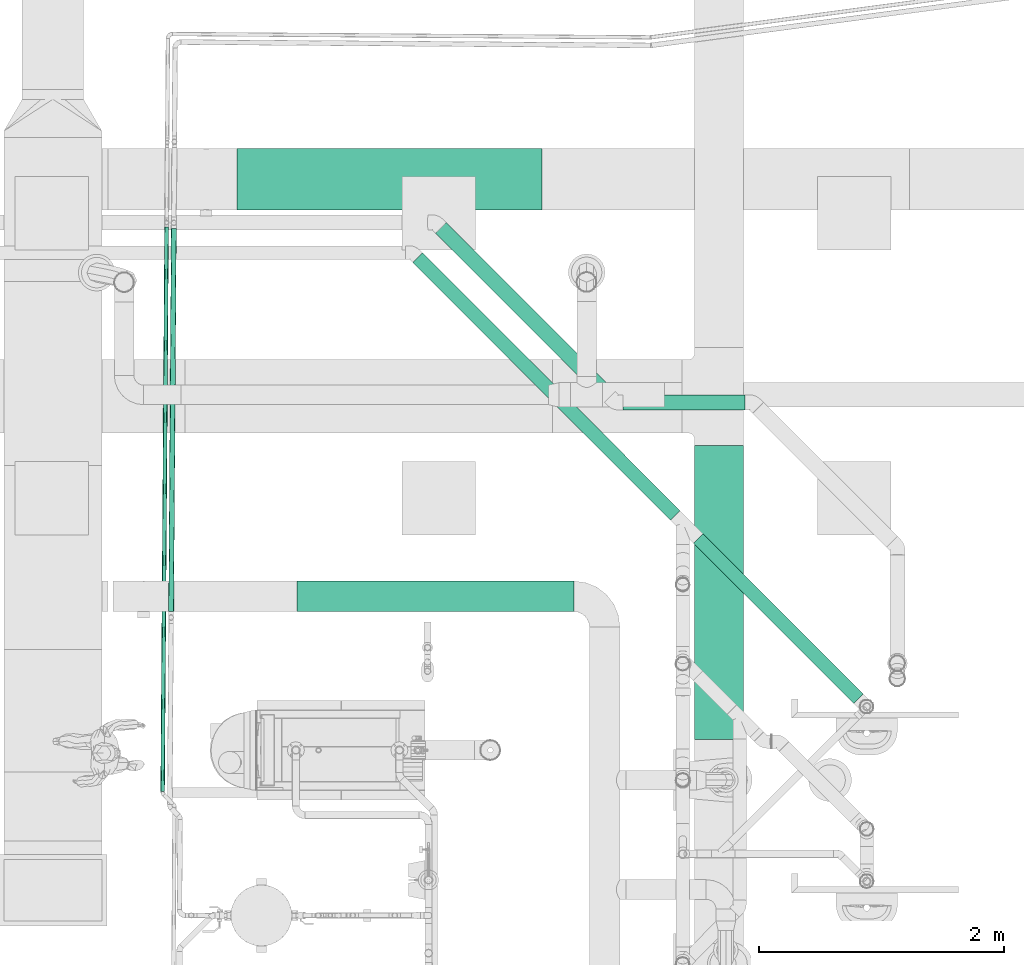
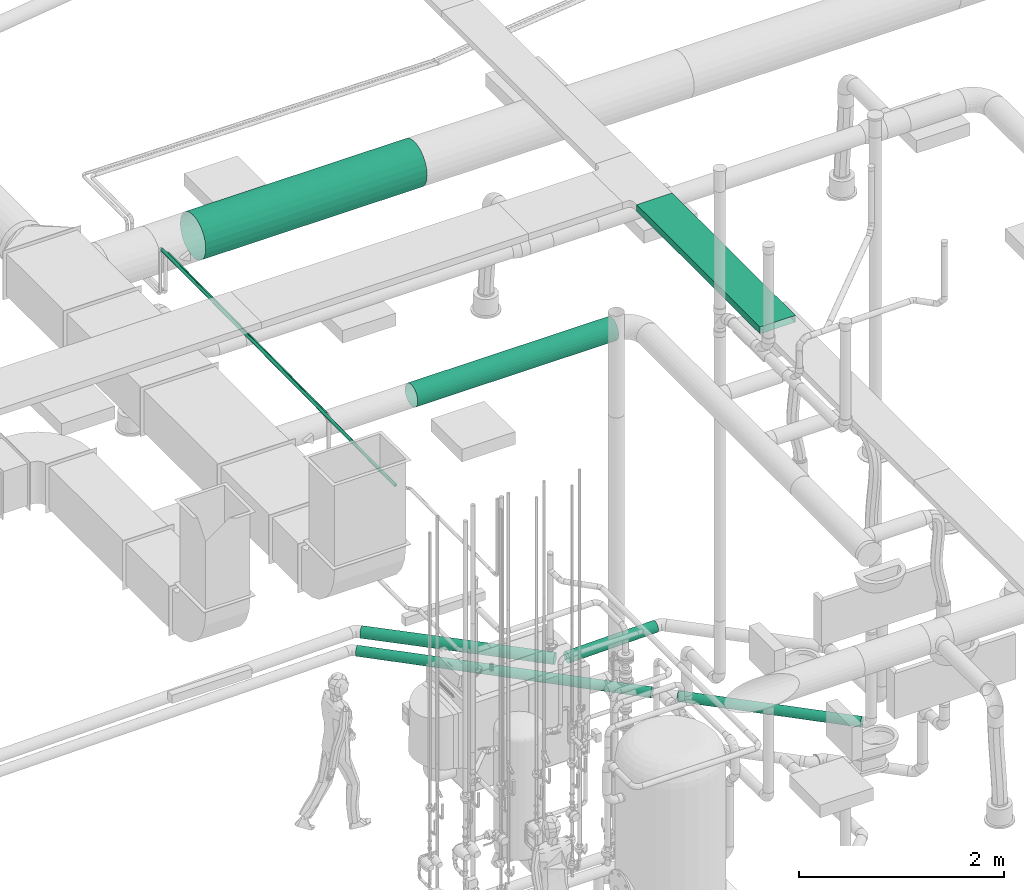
# One storey, part 225 of 374: 8 flow segments, 1 distribution element.
"""IFC2X3 building model written with IfcOpenShell, lengths in metres."""

from ifc_helpers import new_model, si_unit, direction, origin, place, context, subcontext, project, spatial, open_shell, surface_model, source, transform, mapped, element, save


model = new_model("IFC2X3")

# Units and contexts
model_context = context("Model", 3, precision=1e-05, world=origin(), true_north=direction((-0.4480736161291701, 0.8939966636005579)))
body_context = subcontext(model_context, "Body", "Model", "MODEL_VIEW")
ifc_project = project(units=[si_unit("LENGTHUNIT", "METRE"), si_unit("AREAUNIT", "SQUARE_METRE"), si_unit("VOLUMEUNIT", "CUBIC_METRE"), si_unit("PLANEANGLEUNIT", "RADIAN"), si_unit("THERMODYNAMICTEMPERATUREUNIT", "KELVIN"), si_unit("MASSUNIT", "GRAM", prefix="KILO"), si_unit("TIMEUNIT", "SECOND")], contexts=[model_context])

# Site, building, storey
site_placement = place(None, origin())
site = spatial("IfcSite", under=ifc_project, at=site_placement, Name="Site 1", CompositionType="ELEMENT")
building_placement = place(site_placement, origin())
building = spatial("IfcBuilding", under=site, at=building_placement, Name="Undefined", CompositionType="ELEMENT")
storey_placement = place(building_placement, origin())
storey = spatial("IfcBuildingStorey", under=building, at=storey_placement, Name="Rez de chauss\x8ee", CompositionType="ELEMENT", Elevation=0.0)

# Flow segments
shared_shape_1 = source(origin(), body_context, "Body", "SurfaceModel", [
    surface_model("IfcFaceBasedSurfaceModel", [(0.0, 0.0163157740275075, 0.0), (0.0, 0.0, 0.0), (0.9947562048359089, -1.776356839e-15, 0.0), (0.9947562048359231, 0.016315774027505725, 8.8817842e-16), (0.0, -0.015759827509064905, -0.004222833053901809), (0.994756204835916, -0.015759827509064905, -0.004222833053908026), (0.0, -0.029889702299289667, -0.012380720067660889), (0.994756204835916, -0.02988970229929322, -0.012380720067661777), (0.0, -0.04142669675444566, -0.02391771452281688), (0.994756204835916, -0.04142669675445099, -0.023917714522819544), (0.0, -0.04958458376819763, -0.038047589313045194), (0.994756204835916, -0.04958458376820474, -0.03804758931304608), (0.0, -0.053807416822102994, -0.053807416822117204), (0.994756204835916, -0.0538074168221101, -0.05380741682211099), (0.0, -0.053807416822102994, -0.07012319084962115), (0.994756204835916, -0.053807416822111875, -0.0701231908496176), (0.0, -0.04958458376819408, -0.08588301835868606), (0.994756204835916, -0.049584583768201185, -0.0858830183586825), (0.0, -0.04142669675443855, -0.10001289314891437), (0.994756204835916, -0.04142669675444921, -0.10001289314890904), (0.0, -0.02988970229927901, -0.11154988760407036), (0.9947562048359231, -0.029889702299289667, -0.11154988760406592), (0.0, -0.015759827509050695, -0.11970777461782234), (0.9947562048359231, -0.01575982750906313, -0.11970777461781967), (0.0, 1.4210854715e-14, -0.12393060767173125), (0.994756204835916, 1.776356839e-15, -0.12393060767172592), (0.0, 0.016315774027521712, -0.12393060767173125), (0.9947562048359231, 0.0163157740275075, -0.12393060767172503), (0.0, 0.03207560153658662, -0.11970777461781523), (0.9947562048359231, 0.03207560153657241, -0.1197077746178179), (0.0, 0.04620547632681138, -0.11154988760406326), (0.994756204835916, 0.04620547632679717, -0.11154988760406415), (0.0, 0.05774247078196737, -0.10001289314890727), (0.994756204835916, 0.057742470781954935, -0.10001289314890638), (0.0, 0.06590035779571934, -0.08588301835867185), (0.994756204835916, 0.06590035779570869, -0.08588301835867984), (0.0, 0.0701231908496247, -0.07012319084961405), (0.994756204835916, 0.0701231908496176, -0.07012319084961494), (0.0, 0.0701231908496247, -0.05380741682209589), (0.994756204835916, 0.0701231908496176, -0.053807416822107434), (0.0, 0.06590035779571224, -0.03804758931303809), (0.994756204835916, 0.06590035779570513, -0.03804758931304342), (0.0, 0.05774247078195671, -0.023917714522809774), (0.994756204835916, 0.05774247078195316, -0.02391771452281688), (0.0, 0.04620547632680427, -0.012380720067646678), (0.994756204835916, 0.04620547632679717, -0.01238072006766), (0.0, 0.03207560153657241, -0.004222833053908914), (0.9947562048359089, 0.032075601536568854, -0.00422283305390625)], [open_shell([[[0, 1, 2, 3]], [[1, 4, 5, 2]], [[4, 6, 7, 5]], [[6, 8, 9, 7]], [[8, 10, 11, 9]], [[10, 12, 13, 11]], [[12, 14, 15, 13]], [[14, 16, 17, 15]], [[16, 18, 19, 17]], [[18, 20, 21, 19]], [[20, 22, 23, 21]], [[22, 24, 25, 23]], [[24, 26, 27, 25]], [[26, 28, 29, 27]], [[28, 30, 31, 29]], [[30, 32, 33, 31]], [[32, 34, 35, 33]], [[34, 36, 37, 35]], [[36, 38, 39, 37]], [[38, 40, 41, 39]], [[40, 42, 43, 41]], [[42, 44, 45, 43]], [[44, 46, 47, 45]], [[46, 0, 3, 47]]])]),
])
flow_segment_1_placement = place(storey_placement, origin())
element("IfcFlowSegment", 1, at=flow_segment_1_placement, inside=storey, Name="PE-HD tuyau", ObjectType="PE-HD tuyau", context=body_context, shape_type="MappedRepresentation", body=[
    mapped(shared_shape_1, transform((56.58538373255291, 15.877527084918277, -1.147057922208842), x_axis=(0.9998000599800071, 0.0, 0.019996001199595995), y_axis=(-0.002610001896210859, 0.9914448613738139, 0.1305000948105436), z_axis=(-0.01982493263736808, -0.13052619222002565, 0.9912466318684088))),
])
shared_shape_2 = source(origin(), body_context, "Body", "SurfaceModel", [
    surface_model("IfcFaceBasedSurfaceModel", [(0.0, 0.0163157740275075, 0.0), (0.0, 0.0, 0.0), (1.9508234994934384, 0.0, 1.776356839e-15), (1.9508234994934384, 0.016315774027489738, 8.8817842e-16), (0.0, -0.015759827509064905, -0.004222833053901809), (1.9508234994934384, -0.01575982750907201, -0.00422283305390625), (0.0, -0.029889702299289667, -0.012380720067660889), (1.950823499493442, -0.02988970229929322, -0.01238072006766), (0.0, -0.04142669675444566, -0.02391771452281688), (1.9508234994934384, -0.04142669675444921, -0.02391771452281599), (0.0, -0.04958458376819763, -0.038047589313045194), (1.9508234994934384, -0.049584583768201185, -0.03804758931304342), (0.0, -0.053807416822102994, -0.053807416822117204), (1.950823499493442, -0.053807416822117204, -0.05380741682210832), (0.0, -0.053807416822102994, -0.07012319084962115), (1.9508234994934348, -0.053807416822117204, -0.07012319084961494), (0.0, -0.04958458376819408, -0.08588301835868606), (1.950823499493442, -0.049584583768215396, -0.08588301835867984), (0.0, -0.04142669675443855, -0.10001289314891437), (1.9508234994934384, -0.04142669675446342, -0.10001289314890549), (0.0, -0.02988970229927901, -0.11154988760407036), (1.950823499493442, -0.02988970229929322, -0.11154988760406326), (0.0, -0.015759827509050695, -0.11970777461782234), (1.9508234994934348, -0.01575982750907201, -0.1197077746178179), (0.0, 1.4210854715e-14, -0.12393060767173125), (1.9508234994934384, 0.0, -0.12393060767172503), (0.0, 0.016315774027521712, -0.12393060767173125), (1.9508234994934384, 0.016315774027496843, -0.12393060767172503), (0.0, 0.03207560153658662, -0.11970777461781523), (1.9508234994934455, 0.032075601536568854, -0.1197077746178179), (0.0, 0.04620547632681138, -0.11154988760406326), (1.9508234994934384, 0.04620547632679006, -0.11154988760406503), (0.0, 0.05774247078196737, -0.10001289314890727), (1.9508234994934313, 0.057742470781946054, -0.10001289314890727), (0.0, 0.06590035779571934, -0.08588301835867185), (1.950823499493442, 0.06590035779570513, -0.08588301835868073), (0.0, 0.0701231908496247, -0.07012319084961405), (1.9508234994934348, 0.07012319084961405, -0.07012319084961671), (0.0, 0.0701231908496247, -0.05380741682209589), (1.950823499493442, 0.07012319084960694, -0.0538074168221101), (0.0, 0.06590035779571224, -0.03804758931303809), (1.9508234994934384, 0.06590035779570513, -0.038047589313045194), (0.0, 0.05774247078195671, -0.023917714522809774), (1.950823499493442, 0.05774247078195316, -0.023917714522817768), (0.0, 0.04620547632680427, -0.012380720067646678), (1.950823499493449, 0.04620547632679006, -0.012380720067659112), (0.0, 0.03207560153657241, -0.004222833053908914), (1.950823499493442, 0.03207560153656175, -0.004222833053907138)], [open_shell([[[0, 1, 2, 3]], [[1, 4, 5, 2]], [[4, 6, 7, 5]], [[6, 8, 9, 7]], [[8, 10, 11, 9]], [[10, 12, 13, 11]], [[12, 14, 15, 13]], [[14, 16, 17, 15]], [[16, 18, 19, 17]], [[18, 20, 21, 19]], [[20, 22, 23, 21]], [[22, 24, 25, 23]], [[24, 26, 27, 25]], [[26, 28, 29, 27]], [[28, 30, 31, 29]], [[30, 32, 33, 31]], [[32, 34, 35, 33]], [[34, 36, 37, 35]], [[36, 38, 39, 37]], [[38, 40, 41, 39]], [[40, 42, 43, 41]], [[42, 44, 45, 43]], [[44, 46, 47, 45]], [[46, 0, 3, 47]]])]),
])
flow_segment_2_placement = place(storey_placement, origin())
element("IfcFlowSegment", 2, at=flow_segment_2_placement, inside=storey, Name="PE-HD tuyau", ObjectType="PE-HD tuyau", context=body_context, shape_type="MappedRepresentation", body=[
    mapped(shared_shape_2, transform((56.46969670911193, 15.9259412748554, -1.2704056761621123), x_axis=(-0.7069654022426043, 0.7069654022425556, -0.01999600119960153), y_axis=(0.7035271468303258, 0.7000683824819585, -0.1222857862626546), z_axis=(-0.07245325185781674, -0.10051954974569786, -0.9922934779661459))),
])
shared_shape_3 = source(origin(), body_context, "Body", "SurfaceModel", [
    surface_model("IfcFaceBasedSurfaceModel", [(2.9738998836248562, -7.105427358e-15, 0.0), (2.9739025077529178, 0.014357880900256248, 0.0), (2.624128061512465e-06, 0.014357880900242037, 0.0), (0.0, 0.0, 0.0), (2.9739049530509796, 0.028226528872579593, -0.003716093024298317), (5.06942613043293e-06, 0.028226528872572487, -0.003716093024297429), (2.9739070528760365, 0.04066081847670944, -0.010895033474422), (7.1692511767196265e-06, 0.04066081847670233, -0.010895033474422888), (2.9739086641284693, 0.05081337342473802, -0.021047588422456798), (8.780503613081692e-06, 0.05081337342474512, -0.021047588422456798), (2.9739096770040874, 0.0579923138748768, -0.03348187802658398), (9.793379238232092e-06, 0.05799231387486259, -0.033481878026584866), (2.9739100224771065, 0.061708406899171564, -0.04735052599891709), (1.013885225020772e-05, 0.06170840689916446, -0.047350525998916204), (2.973909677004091, 0.061708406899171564, -0.06170840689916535), (9.793379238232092e-06, 0.06170840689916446, -0.06170840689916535), (2.9739086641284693, 0.05799231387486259, -0.07557705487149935), (8.780503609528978e-06, 0.05799231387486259, -0.07557705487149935), (2.97390705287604, 0.05081337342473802, -0.08801134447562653), (7.169251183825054e-06, 0.05081337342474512, -0.08801134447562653), (2.9739049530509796, 0.04066081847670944, -0.09816389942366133), (5.069426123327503e-06, 0.04066081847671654, -0.09816389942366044), (2.973902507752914, 0.028226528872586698, -0.1053428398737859), (2.6241280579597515e-06, 0.028226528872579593, -0.10534283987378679), (2.9738998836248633, 0.014357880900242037, -0.1090589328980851), (3.552713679e-15, 0.014357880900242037, -0.10905893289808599), (2.973897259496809, 0.0, -0.1090589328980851), (-2.6241280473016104e-06, 0.0, -0.1090589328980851), (2.9738948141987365, -0.013868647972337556, -0.10534283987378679), (-5.069426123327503e-06, -0.01386864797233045, -0.10534283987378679), (2.9738927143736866, -0.026302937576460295, -0.0981638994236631), (-7.169251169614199e-06, -0.026302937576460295, -0.09816389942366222), (2.9738911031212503, -0.036455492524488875, -0.0880113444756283), (-8.780503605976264e-06, -0.036455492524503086, -0.0880113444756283), (2.9738900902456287, -0.043634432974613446, -0.07557705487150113), (-9.79337922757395e-06, -0.043634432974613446, -0.07557705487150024), (2.973889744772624, -0.04735052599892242, -0.06170840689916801), (-1.0138852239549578e-05, -0.04735052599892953, -0.06170840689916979), (2.9738900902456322, -0.047350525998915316, -0.04735052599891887), (-9.793379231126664e-06, -0.04735052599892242, -0.04735052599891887), (2.973891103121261, -0.04363443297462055, -0.03348187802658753), (-8.780503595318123e-06, -0.04363443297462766, -0.03348187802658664), (2.973892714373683, -0.03645549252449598, -0.021047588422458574), (-7.1692511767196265e-06, -0.03645549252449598, -0.021047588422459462), (2.97389481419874, -0.02630293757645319, -0.010895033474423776), (-5.069426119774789e-06, -0.0263029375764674, -0.010895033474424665), (2.973897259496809, -0.013868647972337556, -0.003716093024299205), (-2.6241280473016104e-06, -0.013868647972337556, -0.003716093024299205)], [open_shell([[[0, 1, 2, 3]], [[1, 4, 5, 2]], [[4, 6, 7, 5]], [[6, 8, 9, 7]], [[8, 10, 11, 9]], [[10, 12, 13, 11]], [[12, 14, 15, 13]], [[14, 16, 17, 15]], [[16, 18, 19, 17]], [[18, 20, 21, 19]], [[20, 22, 23, 21]], [[22, 24, 25, 23]], [[24, 26, 27, 25]], [[26, 28, 29, 27]], [[28, 30, 31, 29]], [[30, 32, 33, 31]], [[32, 34, 35, 33]], [[34, 36, 37, 35]], [[36, 38, 39, 37]], [[38, 40, 41, 39]], [[40, 42, 43, 41]], [[42, 44, 45, 43]], [[44, 46, 47, 45]], [[46, 0, 3, 47]]])]),
])
flow_segment_3_placement = place(storey_placement, origin())
element("IfcFlowSegment", 3, at=flow_segment_3_placement, inside=storey, Name="PE-HD tuyau", ObjectType="PE-HD tuyau", context=body_context, shape_type="MappedRepresentation", body=[
    mapped(shared_shape_3, transform((54.91108643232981, 17.07486187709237, -1.3138540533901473), x_axis=(0.7069620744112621, -0.7070924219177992, 0.014997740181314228), y_axis=(-0.7030007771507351, -0.7002336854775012, 0.12434907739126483), z_axis=(-0.07742436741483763, -0.09845350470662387, -0.9921251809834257))),
])
shared_shape_4 = source(origin(), body_context, "Body", "SurfaceModel", [
    surface_model("IfcFaceBasedSurfaceModel", [(0.0, 0.014357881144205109, -3.552713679e-15), (0.0, 0.0, 0.0), (1.8499782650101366, -7.105427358e-15, 0.0), (1.8499782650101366, 0.01435788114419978, 0.0), (0.0, -0.01386864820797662, -0.0037160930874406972), (1.849978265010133, -0.013868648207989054, -0.003716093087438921), (0.0, -0.026302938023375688, -0.010895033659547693), (1.8499782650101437, -0.02630293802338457, -0.010895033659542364), (0.0, -0.03645549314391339, -0.021047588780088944), (1.8499782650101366, -0.036455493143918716, -0.02104758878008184), (0.0, -0.04363443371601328, -0.033481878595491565), (1.8499782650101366, -0.04363443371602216, -0.03348187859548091), (0.0, -0.04735052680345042, -0.04735052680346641), (1.8499782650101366, -0.047350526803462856, -0.0473505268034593), (0.0, -0.04735052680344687, -0.06170840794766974), (1.8499782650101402, -0.047350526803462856, -0.06170840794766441), (0.0, -0.04363443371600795, -0.07557705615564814), (1.8499782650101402, -0.04363443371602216, -0.07557705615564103), (0.0, -0.03645549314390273, -0.08801134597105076), (1.8499782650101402, -0.03645549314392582, -0.0880113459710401), (0.0, -0.026302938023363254, -0.0981639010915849), (1.8499782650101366, -0.026302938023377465, -0.0981639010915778), (0.0, -0.013868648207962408, -0.1053428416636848), (1.8499782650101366, -0.013868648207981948, -0.10534284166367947), (0.0, 1.5987211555e-14, -0.10905893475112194), (1.8499782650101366, 0.0, -0.10905893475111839), (0.0, 0.014357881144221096, -0.10905893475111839), (1.8499782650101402, 0.014357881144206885, -0.10905893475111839), (0.0, 0.028226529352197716, -0.10534284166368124), (1.8499782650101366, 0.02822652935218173, -0.10534284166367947), (0.0, 0.040660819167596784, -0.0981639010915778), (1.8499782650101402, 0.04066081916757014, -0.09816390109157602), (0.0, 0.05081337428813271, -0.08801134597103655), (1.8499782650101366, 0.05081337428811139, -0.08801134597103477), (0.0, 0.05799231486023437, -0.07557705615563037), (1.8499782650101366, 0.05799231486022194, -0.0755770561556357), (0.0, 0.06170840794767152, -0.06170840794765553), (1.8499782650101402, 0.06170840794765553, -0.06170840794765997), (0.0, 0.061708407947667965, -0.0473505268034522), (1.8499782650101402, 0.061708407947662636, -0.047350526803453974), (0.0, 0.05799231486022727, -0.033481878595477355), (1.8499782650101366, 0.05799231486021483, -0.033481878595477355), (0.0, 0.050813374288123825, -0.021047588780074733), (1.8499782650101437, 0.050813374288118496, -0.021047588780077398), (0.0, 0.04066081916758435, -0.010895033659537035), (1.8499782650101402, 0.04066081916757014, -0.01089503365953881), (0.0, 0.028226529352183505, -0.0037160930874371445), (1.8499782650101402, 0.028226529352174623, -0.0037160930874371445)], [open_shell([[[0, 1, 2, 3]], [[1, 4, 5, 2]], [[4, 6, 7, 5]], [[6, 8, 9, 7]], [[8, 10, 11, 9]], [[10, 12, 13, 11]], [[12, 14, 15, 13]], [[14, 16, 17, 15]], [[16, 18, 19, 17]], [[18, 20, 21, 19]], [[20, 22, 23, 21]], [[22, 24, 25, 23]], [[24, 26, 27, 25]], [[26, 28, 29, 27]], [[28, 30, 31, 29]], [[30, 32, 33, 31]], [[32, 34, 35, 33]], [[34, 36, 37, 35]], [[36, 38, 39, 37]], [[38, 40, 41, 39]], [[40, 42, 43, 41]], [[42, 44, 45, 43]], [[44, 46, 47, 45]], [[46, 0, 3, 47]]])]),
])
flow_segment_4_placement = place(storey_placement, origin())
element("IfcFlowSegment", 4, at=flow_segment_4_placement, inside=storey, Name="PE-HD tuyau", ObjectType="PE-HD tuyau", context=body_context, shape_type="MappedRepresentation", body=[
    mapped(shared_shape_4, transform((57.190156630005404, 14.775256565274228, -1.1570671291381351), x_axis=(0.7070272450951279, -0.7070272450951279, 0.014998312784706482), y_axis=(0.7002982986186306, 0.7029361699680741, 0.12435044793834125), z_axis=(-0.0984620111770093, -0.07741586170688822, 0.9921250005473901))),
])
shared_shape_5 = source(origin(), body_context, "Body", "SurfaceModel", [
    surface_model("IfcFaceBasedSurfaceModel", [(0.0, 0.03263154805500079, 0.0), (0.0, 0.0, 0.0), (2.261055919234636, 0.0, -4.4408921e-16), (2.261055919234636, 0.032631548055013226, -4.4408921e-16), (0.0, -0.031519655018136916, -0.008445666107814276), (2.261055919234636, -0.03151965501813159, -0.008445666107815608), (0.0, -0.05977940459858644, -0.024761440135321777), (2.261055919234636, -0.05977940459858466, -0.02476144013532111), (0.0, -0.08285339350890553, -0.047835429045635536), (2.261055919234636, -0.0828533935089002, -0.04783542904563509), (0.0, -0.09916916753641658, -0.07609517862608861), (2.261055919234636, -0.09916916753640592, -0.07609517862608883), (0.0, -0.1076148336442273, -0.10761483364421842), (2.261055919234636, -0.10761483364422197, -0.1076148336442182), (0.0, -0.1076148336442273, -0.14024638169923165), (2.261055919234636, -0.10761483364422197, -0.14024638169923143), (0.0, -0.09916916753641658, -0.17176603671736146), (2.261055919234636, -0.0991691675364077, -0.17176603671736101), (0.0, -0.08285339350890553, -0.2000257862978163), (2.261055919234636, -0.08285339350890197, -0.2000257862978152), (0.0, -0.059779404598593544, -0.22309977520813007), (2.261055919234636, -0.059779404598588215, -0.2230997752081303), (0.0, -0.03151965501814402, -0.23941554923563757), (2.261055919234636, -0.03151965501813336, -0.23941554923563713), (0.0, -1.4210854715e-14, -0.24786121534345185), (2.261055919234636, -3.552713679e-15, -0.24786121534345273), (0.0, 0.03263154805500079, -0.24786121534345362), (2.261055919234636, 0.0326315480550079, -0.24786121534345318), (0.0, 0.0641512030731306, -0.23941554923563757), (2.261055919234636, 0.06415120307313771, -0.23941554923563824), (0.0, 0.09241095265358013, -0.22309977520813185), (2.261055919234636, 0.09241095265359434, -0.22309977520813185), (0.0, 0.11548494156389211, -0.2000257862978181), (2.261055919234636, 0.1154849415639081, -0.20002578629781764), (0.0, 0.13180071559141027, -0.171766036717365), (2.261055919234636, 0.13180071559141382, -0.17176603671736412), (0.0, 0.140246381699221, -0.1402463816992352), (2.261055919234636, 0.14024638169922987, -0.1402463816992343), (0.0, 0.140246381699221, -0.10761483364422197), (2.261055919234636, 0.14024638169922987, -0.10761483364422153), (0.0, 0.13180071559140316, -0.07609517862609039), (2.261055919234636, 0.1318007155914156, -0.07609517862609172), (0.0, 0.11548494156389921, -0.04783542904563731), (2.261055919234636, 0.11548494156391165, -0.047835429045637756), (0.0, 0.09241095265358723, -0.024761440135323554), (2.261055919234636, 0.09241095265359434, -0.02476144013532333), (0.0, 0.06415120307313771, -0.008445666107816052), (2.261055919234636, 0.06415120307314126, -0.008445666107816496)], [open_shell([[[0, 1, 2, 3]], [[1, 4, 5, 2]], [[4, 6, 7, 5]], [[6, 8, 9, 7]], [[8, 10, 11, 9]], [[10, 12, 13, 11]], [[12, 14, 15, 13]], [[14, 16, 17, 15]], [[16, 18, 19, 17]], [[18, 20, 21, 19]], [[20, 22, 23, 21]], [[22, 24, 25, 23]], [[24, 26, 27, 25]], [[26, 28, 29, 27]], [[28, 30, 31, 29]], [[30, 32, 33, 31]], [[32, 34, 35, 33]], [[34, 36, 37, 35]], [[36, 38, 39, 37]], [[38, 40, 41, 39]], [[40, 42, 43, 41]], [[42, 44, 45, 43]], [[44, 46, 47, 45]], [[46, 0, 3, 47]]])]),
])
flow_segment_5_placement = place(storey_placement, origin())
element("IfcFlowSegment", 5, at=flow_segment_5_placement, inside=storey, Name="Tube", ObjectType="Tube", context=body_context, shape_type="MappedRepresentation", body=[
    mapped(shared_shape_5, transform((53.92499507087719, 14.278791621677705, 3.920740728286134), x_axis=(1.0, 0.0, 0.0), y_axis=(0.0, 0.9914448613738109, 0.1305261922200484), z_axis=(0.0, -0.1305261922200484, 0.9914448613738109))),
])
shared_shape_6 = source(origin(), body_context, "Body", "SurfaceModel", [
    surface_model("IfcFaceBasedSurfaceModel", [(0.0, 0.0652630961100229, -3.552713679e-15), (0.0, 0.0, 0.0), (2.490000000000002, 0.0, 0.0), (2.490000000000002, 0.06526309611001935, 0.0), (0.0, -0.06303931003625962, -0.01689133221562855), (2.490000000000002, -0.06303931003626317, -0.016891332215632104), (0.0, -0.11955880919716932, -0.049522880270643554), (2.490000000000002, -0.11955880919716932, -0.04952288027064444), (0.0, -0.1657067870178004, -0.09567085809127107), (2.490000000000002, -0.16570678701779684, -0.09567085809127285), (0.0, -0.1983383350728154, -0.15219035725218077), (2.490000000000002, -0.19833833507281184, -0.15219035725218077), (0.0, -0.2152296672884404, -0.2152296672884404), (2.490000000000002, -0.21522966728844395, -0.2152296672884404), (0.0, -0.2152296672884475, -0.28049276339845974), (2.490000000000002, -0.2152296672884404, -0.28049276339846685), (0.0, -0.1983383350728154, -0.3435320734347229), (2.490000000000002, -0.19833833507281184, -0.34353207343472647), (0.0, -0.1657067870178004, -0.4000515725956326), (2.490000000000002, -0.16570678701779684, -0.4000515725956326), (0.0, -0.11955880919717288, -0.44619955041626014), (2.490000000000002, -0.11955880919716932, -0.4461995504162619), (0.0, -0.06303931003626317, -0.47883109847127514), (2.490000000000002, -0.06303931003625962, -0.47883109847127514), (0.0, -7.105427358e-15, -0.49572243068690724), (2.490000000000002, -3.552713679e-15, -0.49572243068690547), (0.0, 0.0652630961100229, -0.4957224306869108), (2.490000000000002, 0.06526309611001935, -0.49572243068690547), (0.0, 0.12830240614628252, -0.47883109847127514), (2.490000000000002, 0.12830240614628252, -0.47883109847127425), (0.0, 0.18482190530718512, -0.4461995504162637), (2.490000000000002, 0.18482190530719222, -0.4461995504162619), (0.0, 0.2309698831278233, -0.4000515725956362), (2.490000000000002, 0.23096988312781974, -0.4000515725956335), (0.0, 0.26360143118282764, -0.34353207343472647), (2.490000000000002, 0.2636014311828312, -0.3435320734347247), (0.0, 0.2804927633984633, -0.2804927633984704), (2.490000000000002, 0.2804927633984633, -0.28049276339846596), (0.0, 0.28049276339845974, -0.2152296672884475), (2.490000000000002, 0.28049276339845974, -0.2152296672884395), (0.0, 0.2636014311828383, -0.15219035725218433), (2.490000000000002, 0.26360143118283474, -0.15219035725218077), (0.0, 0.2309698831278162, -0.09567085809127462), (2.490000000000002, 0.23096988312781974, -0.09567085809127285), (0.0, 0.18482190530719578, -0.049522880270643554), (2.490000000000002, 0.18482190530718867, -0.049522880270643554), (0.0, 0.12830240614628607, -0.016891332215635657), (2.490000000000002, 0.12830240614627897, -0.016891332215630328)], [open_shell([[[0, 1, 2, 3]], [[1, 4, 5, 2]], [[4, 6, 7, 5]], [[6, 8, 9, 7]], [[8, 10, 11, 9]], [[10, 12, 13, 11]], [[12, 14, 15, 13]], [[14, 16, 17, 15]], [[16, 18, 19, 17]], [[18, 20, 21, 19]], [[20, 22, 23, 21]], [[22, 24, 25, 23]], [[24, 26, 27, 25]], [[26, 28, 29, 27]], [[28, 30, 31, 29]], [[30, 32, 33, 31]], [[32, 34, 35, 33]], [[34, 36, 37, 35]], [[36, 38, 39, 37]], [[38, 40, 41, 39]], [[40, 42, 43, 41]], [[42, 44, 45, 43]], [[44, 46, 47, 45]], [[46, 0, 3, 47]]])]),
])
flow_segment_6_placement = place(storey_placement, origin())
element("IfcFlowSegment", 6, at=flow_segment_6_placement, inside=storey, Name="Tube", ObjectType="Tube", context=body_context, shape_type="MappedRepresentation", body=[
    mapped(shared_shape_6, transform((55.924995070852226, 17.649561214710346, 3.5585185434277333), x_axis=(-1.0, 0.0, 0.0), y_axis=(0.0, 0.9914448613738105, -0.13052619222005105), z_axis=(9.56658874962e-13, -0.13052619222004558, -0.9914448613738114))),
])
shared_shape_7 = source(origin(), body_context, "Body", "SurfaceModel", [
    surface_model("IfcFaceBasedSurfaceModel", [(3.123717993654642, -1.33226763e-15, 0.0), (3.1237179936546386, 0.00553431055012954, 7.105427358e-15), (0.0, 0.005534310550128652, 0.0), (0.0, 0.0, 0.0), (3.1237179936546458, 0.010880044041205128, -0.0014323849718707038), (0.0, 0.010880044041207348, -0.0014323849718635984), (3.1237179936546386, 0.015672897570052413, -0.004199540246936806), (0.0, 0.015672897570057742, -0.004199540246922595), (3.1237179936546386, 0.019586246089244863, -0.008112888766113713), (0.0, 0.019586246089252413, -0.008112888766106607), (3.123717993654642, 0.02235340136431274, -0.012905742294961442), (0.0, 0.022353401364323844, -0.012905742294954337), (3.1237179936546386, 0.02378578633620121, -0.01825147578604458), (0.0, 0.023785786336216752, -0.01825147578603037), (3.1237179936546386, 0.02378578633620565, -0.02378578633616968), (0.0, 0.02378578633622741, -0.023785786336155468), (3.123717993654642, 0.022353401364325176, -0.02913151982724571), (0.0, 0.0223534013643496, -0.029131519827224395), (3.123717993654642, 0.019586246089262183, -0.033924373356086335), (0.0, 0.019586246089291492, -0.033924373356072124), (3.123717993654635, 0.015672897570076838, -0.03783772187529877), (0.0, 0.01567289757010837, -0.03783772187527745), (3.1237179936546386, 0.010880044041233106, -0.04060487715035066), (0.0, 0.010880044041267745, -0.04060487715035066), (3.1237179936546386, 0.00553431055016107, -0.042037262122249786), (0.0, 0.005534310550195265, -0.04203726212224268), (3.1237179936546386, 2.886579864e-14, -0.04203726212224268), (0.0, 6.4837024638e-14, -0.042037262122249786), (3.123717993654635, -0.00534573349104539, -0.04060487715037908), (0.0, -0.005345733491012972, -0.040604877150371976), (3.123717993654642, -0.010138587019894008, -0.03783772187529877), (0.0, -0.010138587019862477, -0.037837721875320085), (3.123717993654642, -0.014051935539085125, -0.03392437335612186), (0.0, -0.014051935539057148, -0.03392437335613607), (3.1237179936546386, -0.016819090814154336, -0.029131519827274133), (0.0, -0.01681909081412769, -0.029131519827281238), (3.1237179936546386, -0.018251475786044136, -0.023785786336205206), (0.0, -0.0182514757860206, -0.02378578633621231), (3.123717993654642, -0.018251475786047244, -0.018251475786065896), (0.0, -0.018251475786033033, -0.018251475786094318), (3.1237179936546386, -0.01681909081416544, -0.012905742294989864), (0.0, -0.016819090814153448, -0.012905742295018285), (3.1237179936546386, -0.014051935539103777, -0.00811288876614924), (0.0, -0.01405193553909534, -0.008112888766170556), (3.1237179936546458, -0.0101385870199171, -0.004199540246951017), (0.0, -0.010138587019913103, -0.004199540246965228), (3.1237179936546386, -0.0053457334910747, -0.00143238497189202), (0.0, -0.00534573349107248, -0.0014323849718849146)], [open_shell([[[0, 1, 2, 3]], [[1, 4, 5, 2]], [[4, 6, 7, 5]], [[6, 8, 9, 7]], [[8, 10, 11, 9]], [[10, 12, 13, 11]], [[12, 14, 15, 13]], [[14, 16, 17, 15]], [[16, 18, 19, 17]], [[18, 20, 21, 19]], [[20, 22, 23, 21]], [[22, 24, 25, 23]], [[24, 26, 27, 25]], [[26, 28, 29, 27]], [[28, 30, 31, 29]], [[30, 32, 33, 31]], [[32, 34, 35, 33]], [[34, 36, 37, 35]], [[36, 38, 39, 37]], [[38, 40, 41, 39]], [[40, 42, 43, 41]], [[42, 44, 45, 43]], [[44, 46, 47, 45]], [[46, 0, 3, 47]]])]),
])
flow_segment_7_placement = place(storey_placement, origin())
element("IfcFlowSegment", 7, at=flow_segment_7_placement, inside=storey, Name="Tube acier d'après DIN 2448", ObjectType="Tube acier d'après DIN 2448", context=body_context, shape_type="MappedRepresentation", body=[
    mapped(shared_shape_7, transform((52.92102497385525, 14.186850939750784, 4.005140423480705), x_axis=(0.0069812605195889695, 0.9999756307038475, 0.0), y_axis=(-0.13052301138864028, 0.000911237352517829, 0.9914448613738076), z_axis=(0.9914207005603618, -0.0069215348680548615, 0.1305261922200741))),
])
shared_shape_8 = source(origin(), body_context, "Body", "SurfaceModel", [
    surface_model("IfcFaceBasedSurfaceModel", [(4.604368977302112, 1.776356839e-15, 0.0), (4.604368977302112, 0.004398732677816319, 0.0), (0.0, 0.004398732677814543, 0.0), (0.0, 0.0, 0.0), (4.604368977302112, 0.008647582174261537, -0.0011384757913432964), (0.0, 0.00864758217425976, -0.0011384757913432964), (4.604368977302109, 0.012456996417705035, -0.0033378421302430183), (0.0, 0.012456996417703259, -0.0033378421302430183), (4.604368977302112, 0.015567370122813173, -0.006448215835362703), (0.0, 0.015567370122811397, -0.006448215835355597), (4.604368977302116, 0.017766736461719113, -0.010257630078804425), (0.0, 0.01776673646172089, -0.01025763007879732), (4.604368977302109, 0.01890521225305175, -0.01450647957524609), (0.0, 0.018905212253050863, -0.01450647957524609), (4.604368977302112, 0.018905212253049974, -0.01890521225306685), (0.0, 0.018905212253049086, -0.01890521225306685), (4.604368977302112, 0.01776673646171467, -0.02315406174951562), (0.0, 0.017766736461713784, -0.023154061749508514), (4.604368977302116, 0.01556737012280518, -0.02696347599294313), (0.0, 0.01556737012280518, -0.026963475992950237), (4.604368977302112, 0.012456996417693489, -0.03007384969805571), (0.0, 0.012456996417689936, -0.030073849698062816), (4.604368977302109, 0.008647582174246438, -0.03227321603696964), (0.0, 0.008647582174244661, -0.03227321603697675), (4.604368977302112, 0.004398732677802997, -0.03341169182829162), (0.0, 0.00439873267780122, -0.03341169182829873), (4.604368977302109, -1.3322676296e-14, -0.03341169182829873), (0.0, -1.5099033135e-14, -0.03341169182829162), (4.604368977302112, -0.004248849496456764, -0.03227321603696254), (0.0, -0.004248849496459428, -0.03227321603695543), (4.604368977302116, -0.00805826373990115, -0.030073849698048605), (0.0, -0.008058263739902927, -0.03007384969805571), (4.604368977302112, -0.011168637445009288, -0.02696347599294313), (0.0, -0.011168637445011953, -0.02696347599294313), (4.604368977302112, -0.013368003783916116, -0.023154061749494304), (0.0, -0.013368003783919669, -0.023154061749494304), (4.604368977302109, -0.014506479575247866, -0.01890521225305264), (0.0, -0.01450647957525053, -0.01890521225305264), (4.604368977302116, -0.014506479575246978, -0.014506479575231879), (0.0, -0.014506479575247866, -0.014506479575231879), (4.604368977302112, -0.013368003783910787, -0.010257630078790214), (0.0, -0.013368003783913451, -0.010257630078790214), (4.604368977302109, -0.011168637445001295, -0.006448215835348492), (0.0, -0.01116863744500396, -0.0064482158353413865), (4.604368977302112, -0.008058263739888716, -0.0033378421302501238), (0.0, -0.008058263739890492, -0.003337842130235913), (4.604368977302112, -0.004248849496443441, -0.0011384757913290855), (0.0, -0.004248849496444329, -0.00113847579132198)], [open_shell([[[0, 1, 2, 3]], [[1, 4, 5, 2]], [[4, 6, 7, 5]], [[6, 8, 9, 7]], [[8, 10, 11, 9]], [[10, 12, 13, 11]], [[12, 14, 15, 13]], [[14, 16, 17, 15]], [[16, 18, 19, 17]], [[18, 20, 21, 19]], [[20, 22, 23, 21]], [[22, 24, 25, 23]], [[24, 26, 27, 25]], [[26, 28, 29, 27]], [[28, 30, 31, 29]], [[30, 32, 33, 31]], [[32, 34, 35, 33]], [[34, 36, 37, 35]], [[36, 38, 39, 37]], [[38, 40, 41, 39]], [[40, 42, 43, 41]], [[42, 44, 45, 43]], [[44, 46, 47, 45]], [[46, 0, 3, 47]]])]),
])
flow_segment_8_placement = place(storey_placement, origin())
element("IfcFlowSegment", 8, at=flow_segment_8_placement, inside=storey, Name="Tube acier d'après DIN 2448", ObjectType="Tube acier d'après DIN 2448", context=body_context, shape_type="MappedRepresentation", body=[
    mapped(shared_shape_8, transform((52.84722227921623, 12.718506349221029, 4.0743099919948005), x_axis=(0.0069812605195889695, 0.9999756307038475, 0.0), y_axis=(-0.13052301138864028, 0.000911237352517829, 0.9914448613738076), z_axis=(0.9914207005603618, -0.0069215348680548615, 0.1305261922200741))),
])

# Distribution element
shared_shape_9 = source(origin(), body_context, "Body", "SurfaceModel", [
    surface_model("IfcFaceBasedSurfaceModel", [(0.0, 0.0, 0.0), (2.4000210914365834, 0.0, 0.0), (2.4000210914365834, 0.08000000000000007, 0.0), (0.0, 0.08000000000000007, 0.0), (2.4000210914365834, 0.0, -0.3999999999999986), (0.0, 0.0, -0.3999999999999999), (0.0, 0.08000000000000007, -0.3999999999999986), (2.4000210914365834, 0.08000000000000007, -0.3999999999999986)], [open_shell([[[0, 1, 2, 3]], [[4, 5, 6, 7]], [[6, 3, 2]], [[6, 2, 7]], [[1, 0, 5]], [[4, 1, 5]]])]),
])
distribution_element_placement = place(storey_placement, origin())
element("IfcDistributionElement", 9, at=distribution_element_placement, inside=storey, Name="Chemin(s) de câbles", ObjectType="Chemin(s) de câbles", context=body_context, shape_type="MappedRepresentation", body=[
    mapped(shared_shape_9, transform((57.168996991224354, 13.143616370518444, 4.18), x_axis=(0.0, 1.0, 0.0), y_axis=(0.0, 0.0, -1.0), z_axis=(-1.0, 0.0, 0.0))),
])

save(model, "model.ifc")
